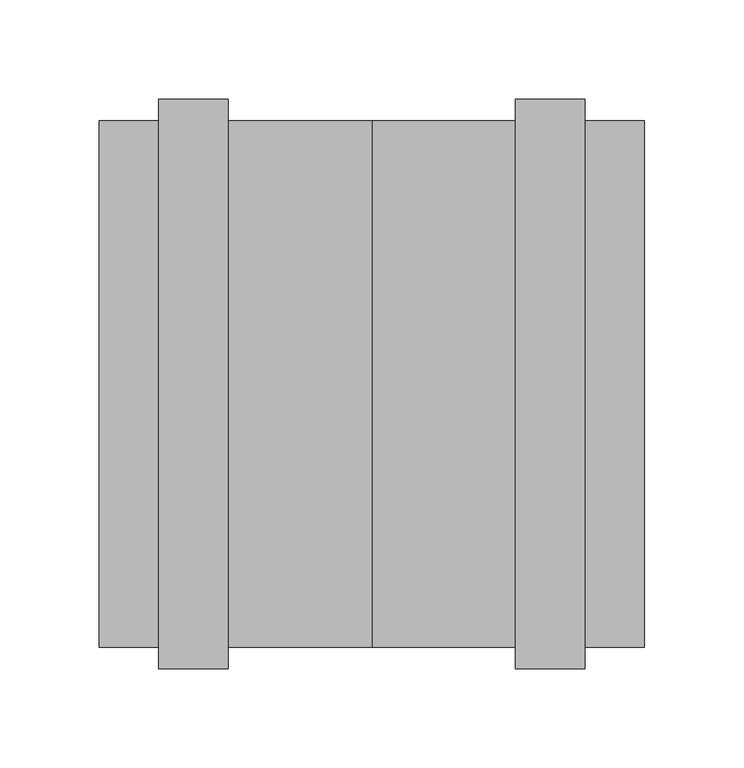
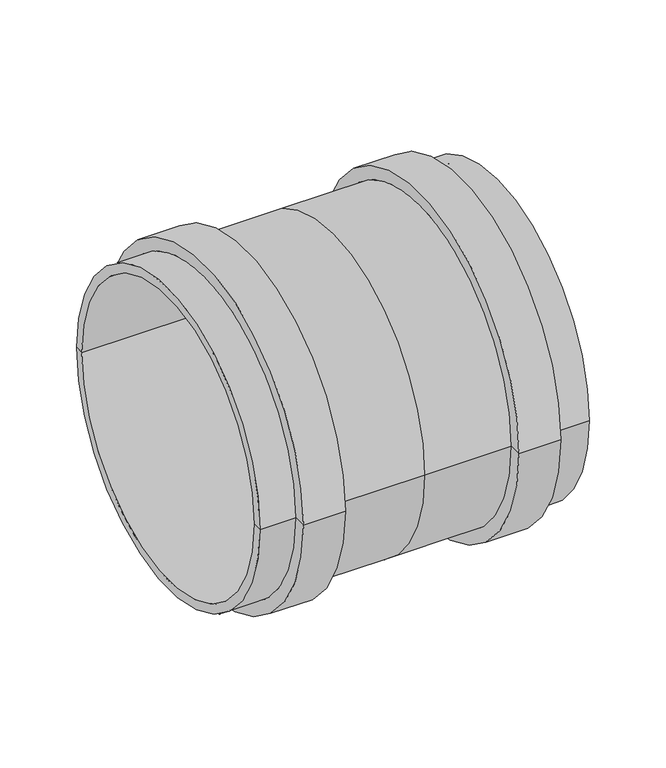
"""IFC4 building model written with IfcOpenShell, lengths in millimetres: pipe fitting geometry, OSMA_KG2000_PPKGMM : Spojka dvouhrdlá."""

from ifc_helpers import new_model, si_unit, frame, origin, place, context, project, spatial, polyline, circle_curve, source, transform, mapped, element, save
from ifc_brep_helpers import plane_surface, cylinder_surface, revolved_surface, advanced_brep


def pipe_fitting_12f81acd(model_context):
    return source(origin(), model_context, "Body", "AdvancedBrep", [
        advanced_brep(
        [(-137.5, -125.0, 0.0), (-137.5, 125.0, 0.0), (-137.5, 132.7, 0.0), (-137.5, -132.7, 0.0), (-72.5, -143.5, 0.0), (-72.5, 143.5, 0.0), (-72.5, 132.7, 0.0), (-72.5, -132.7, 0.0), (-107.5, -143.5, 0.0), (-107.5, 143.5, 0.0), (-107.5, -132.7, 0.0), (-107.5, 132.7, 0.0), (0.0, 132.7, 0.0), (0.0, -132.7, 0.0), (107.5, -143.5, 0.0), (107.5, 143.5, 0.0), (107.5, 132.7, 0.0), (107.5, -132.7, 0.0), (72.5, -143.5, 0.0), (72.5, 143.5, 0.0), (72.5, -132.7, 0.0), (72.5, 132.7, 0.0), (137.5, 132.7, 0.0), (137.5, -132.7, 0.0), (137.5, 125.0, 0.0), (137.5, -125.0, 0.0), (0.0, -125.0, 0.0), (0.0, 125.0, 0.0)],
        [
            (0, 1, circle_curve(frame((-137.5, 0.0, 0.0), z_axis=(1.0, 0.0, 0.0), x_axis=(0.0, 1.0, 0.0)), 125.0)),
            (1, 2),
            (2, 3, circle_curve(frame((-137.5, 0.0, 0.0), z_axis=(-1.0, 0.0, 0.0), x_axis=(0.0, 1.0, 0.0)), 132.7)),
            (3, 0),
            (1, 0, circle_curve(frame((-137.5, 0.0, 0.0), z_axis=(1.0, 0.0, 0.0), x_axis=(0.0, 1.0, 0.0)), 125.0)),
            (3, 2, circle_curve(frame((-137.5, 0.0, 0.0), z_axis=(-1.0, 0.0, 0.0), x_axis=(0.0, 1.0, 0.0)), 132.7)),
            (4, 5, circle_curve(frame((-72.5, 0.0, 0.0), z_axis=(1.0, 0.0, 0.0), x_axis=(0.0, 1.0, 0.0)), 143.5)),
            (5, 6),
            (6, 7, circle_curve(frame((-72.5, 0.0, 0.0), z_axis=(-1.0, 0.0, 0.0), x_axis=(0.0, 1.0, 0.0)), 132.7)),
            (7, 4),
            (5, 4, circle_curve(frame((-72.5, 0.0, 0.0), z_axis=(1.0, 0.0, 0.0), x_axis=(0.0, 1.0, 0.0)), 143.5)),
            (7, 6, circle_curve(frame((-72.5, 0.0, 0.0), z_axis=(-1.0, 0.0, 0.0), x_axis=(0.0, 1.0, 0.0)), 132.7)),
            (4, 8),
            (8, 9, circle_curve(frame((-107.5, 0.0, 0.0), z_axis=(1.0, 0.0, 0.0), x_axis=(0.0, 1.0, 0.0)), 143.5)),
            (9, 5),
            (9, 8, circle_curve(frame((-107.5, 0.0, 0.0), z_axis=(1.0, 0.0, 0.0), x_axis=(0.0, 1.0, 0.0)), 143.5)),
            (8, 10),
            (10, 11, circle_curve(frame((-107.5, 0.0, 0.0), z_axis=(1.0, 0.0, 0.0), x_axis=(0.0, 1.0, 0.0)), 132.7)),
            (11, 9),
            (11, 10, circle_curve(frame((-107.5, 0.0, 0.0), z_axis=(1.0, 0.0, 0.0), x_axis=(0.0, 1.0, 0.0)), 132.7)),
            (2, 11),
            (10, 3),
            (6, 12),
            (12, 13, circle_curve(frame((0.0, 0.0, 0.0), z_axis=(-1.0, 0.0, 0.0), x_axis=(0.0, 1.0, 0.0)), 132.7)),
            (13, 7),
            (13, 12, circle_curve(frame((0.0, 0.0, 0.0), z_axis=(-1.0, 0.0, 0.0), x_axis=(0.0, 1.0, 0.0)), 132.7)),
            (14, 15, circle_curve(frame((107.5, 0.0, 0.0), z_axis=(1.0, 0.0, 0.0), x_axis=(0.0, 1.0, 0.0)), 143.5)),
            (15, 16),
            (16, 17, circle_curve(frame((107.5, 0.0, 0.0), z_axis=(-1.0, 0.0, 0.0), x_axis=(0.0, 1.0, 0.0)), 132.7)),
            (17, 14),
            (15, 14, circle_curve(frame((107.5, 0.0, 0.0), z_axis=(1.0, 0.0, 0.0), x_axis=(0.0, 1.0, 0.0)), 143.5)),
            (17, 16, circle_curve(frame((107.5, 0.0, 0.0), z_axis=(-1.0, 0.0, 0.0), x_axis=(0.0, 1.0, 0.0)), 132.7)),
            (14, 18),
            (18, 19, circle_curve(frame((72.5, 0.0, 0.0), z_axis=(1.0, 0.0, 0.0), x_axis=(0.0, 1.0, 0.0)), 143.5)),
            (19, 15),
            (19, 18, circle_curve(frame((72.5, 0.0, 0.0), z_axis=(1.0, 0.0, 0.0), x_axis=(0.0, 1.0, 0.0)), 143.5)),
            (18, 20),
            (20, 21, circle_curve(frame((72.5, 0.0, 0.0), z_axis=(1.0, 0.0, 0.0), x_axis=(0.0, 1.0, 0.0)), 132.7)),
            (21, 19),
            (21, 20, circle_curve(frame((72.5, 0.0, 0.0), z_axis=(1.0, 0.0, 0.0), x_axis=(0.0, 1.0, 0.0)), 132.7)),
            (20, 13),
            (12, 21),
            (16, 22),
            (22, 23, circle_curve(frame((137.5, 0.0, 0.0), z_axis=(-1.0, 0.0, 0.0), x_axis=(0.0, 1.0, 0.0)), 132.7)),
            (23, 17),
            (23, 22, circle_curve(frame((137.5, 0.0, 0.0), z_axis=(-1.0, 0.0, 0.0), x_axis=(0.0, 1.0, 0.0)), 132.7)),
            (22, 24),
            (24, 25, circle_curve(frame((137.5, 0.0, 0.0), z_axis=(-1.0, 0.0, 0.0), x_axis=(0.0, 1.0, 0.0)), 125.0)),
            (25, 23),
            (25, 24, circle_curve(frame((137.5, 0.0, 0.0), z_axis=(-1.0, 0.0, 0.0), x_axis=(0.0, 1.0, 0.0)), 125.0)),
            (0, 26),
            (26, 27, circle_curve(frame((0.0, 0.0, 0.0), z_axis=(1.0, 0.0, 0.0), x_axis=(0.0, 1.0, 0.0)), 125.0)),
            (27, 1),
            (27, 26, circle_curve(frame((0.0, 0.0, 0.0), z_axis=(1.0, 0.0, 0.0), x_axis=(0.0, 1.0, 0.0)), 125.0)),
            (24, 27),
            (26, 25),
        ],
        [
            plane_surface(frame((-137.5, 0.0, 0.0), z_axis=(-1.0, 0.0, 0.0), x_axis=(0.0, 1.0, 0.0))),
            plane_surface(frame((-72.5, 0.0, 0.0), z_axis=(1.0, 0.0, 0.0), x_axis=(0.0, 1.0, 0.0))),
            cylinder_surface(frame((338.0, 0.0, 0.0), z_axis=(-1.0, 0.0, 0.0), x_axis=(0.0, 1.0, 0.0)), 143.5),
            plane_surface(frame((-107.5, 0.0, 0.0), z_axis=(-1.0, 0.0, 0.0), x_axis=(0.0, 1.0, 0.0))),
            cylinder_surface(frame((338.0, 0.0, 0.0), z_axis=(-1.0, 0.0, 0.0), x_axis=(0.0, 1.0, 0.0)), 132.7),
            plane_surface(frame((107.5, 0.0, 0.0), z_axis=(1.0, 0.0, 0.0), x_axis=(0.0, 1.0, 0.0))),
            plane_surface(frame((72.5, 0.0, 0.0), z_axis=(-1.0, 0.0, 0.0), x_axis=(0.0, 1.0, 0.0))),
            plane_surface(frame((137.5, 0.0, 0.0), z_axis=(1.0, 0.0, 0.0), x_axis=(0.0, 1.0, 0.0))),
            revolved_surface(polyline([(-137.5, 125.0, 0.0), (0.0, 125.0, 0.0)]), (338.0, 0.0, 0.0), (-1.0, 0.0, 0.0)),
            revolved_surface(polyline([(0.0, 125.0, 0.0), (137.5, 125.0, 0.0)]), (338.0, 0.0, 0.0), (-1.0, 0.0, 0.0)),
        ],
        [
            (0, [[1, 2, 3, 4]]),
            (0, [[-2, 5, -4, 6]]),
            (1, [[7, 8, 9, 10]]),
            (1, [[-8, 11, -10, 12]]),
            (2, [[-7, 13, 14, 15]]),
            (2, [[-11, -15, 16, -13]]),
            (3, [[-14, 17, 18, 19]]),
            (3, [[-16, -19, 20, -17]]),
            (4, [[-3, 21, -18, 22]]),
            (4, [[-6, -22, -20, -21]]),
            (4, [[-9, 23, 24, 25]]),
            (4, [[-12, -25, 26, -23]]),
            (5, [[27, 28, 29, 30]]),
            (5, [[-28, 31, -30, 32]]),
            (2, [[-27, 33, 34, 35]]),
            (2, [[-31, -35, 36, -33]]),
            (6, [[-34, 37, 38, 39]]),
            (6, [[-36, -39, 40, -37]]),
            (4, [[-38, 41, -24, 42]]),
            (4, [[-40, -42, -26, -41]]),
            (4, [[-29, 43, 44, 45]]),
            (4, [[-32, -45, 46, -43]]),
            (7, [[-44, 47, 48, 49]]),
            (7, [[-46, -49, 50, -47]]),
            (8, [[-1, 51, 52, 53]]),
            (8, [[-5, -53, 54, -51]]),
            (9, [[-48, 55, -52, 56]]),
            (9, [[-50, -56, -54, -55]]),
        ],
    ),
    ])


if __name__ == "__main__":
    model = new_model("IFC4")
    model_context = context("Model", 3, world=origin())
    ifc_project = project(units=[si_unit("LENGTHUNIT", "METRE", prefix="MILLI")], contexts=[model_context])
    site = spatial("IfcSite", under=ifc_project)
    building = spatial("IfcBuilding", under=site)
    placement = place(None, origin())
    pipe_fitting_shape = pipe_fitting_12f81acd(model_context)
    element("IfcPipeFitting", 1, ObjectType="OSMA_KG2000_PPKGMM : Spojka dvouhrdlá", at=placement, inside=building, context=model_context, shape_type="MappedRepresentation", body=[
        mapped(pipe_fitting_shape, transform((0.0, 0.0, 0.0), x_axis=(1.0, 0.0, 0.0), y_axis=(0.0, 1.0, 0.0), z_axis=(0.0, 0.0, 1.0))),
    ])
    save(model, "model.ifc")
